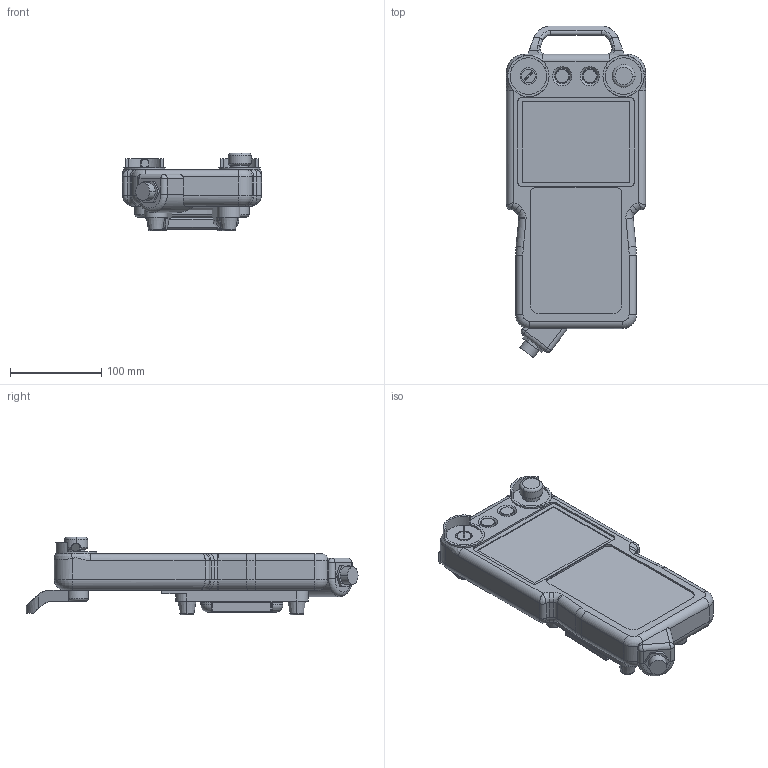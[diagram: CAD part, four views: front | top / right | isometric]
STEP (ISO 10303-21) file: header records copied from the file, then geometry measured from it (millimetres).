
FILE_DESCRIPTION (( 'STEP AP203' ), '1' );
FILE_NAME ('TR8尨諒ん.STEP', '2020-12-29T05:37:15', ( '' ), ( '' ), 'SwSTEP 2.0', 'SolidWorks 2018', '' );
FILE_SCHEMA (( 'CONFIG_CONTROL_DESIGN' ));
Length unit declared in the file: millimetre
Products named in the file (1): TR8尨諒ん
Bounding box: 152 x 362.89 x 85 mm (x, y, z)
Volume: 1722154.3 mm3; surface area: 158921.4 mm2
Topology: 2 solids, 2 shells, 357 faces, 882 edges, 540 vertices
Faces by surface type: cylinder 130, plane 127, torus 42, bspline 29, cone 22, sphere 7
Entity records: 12691 total; most frequent: CARTESIAN_POINT 4300, DIRECTION 1780, ORIENTED_EDGE 1744, EDGE_CURVE 872, AXIS2_PLACEMENT_3D 685, VERTEX_POINT 537, VECTOR 410, LINE 410
